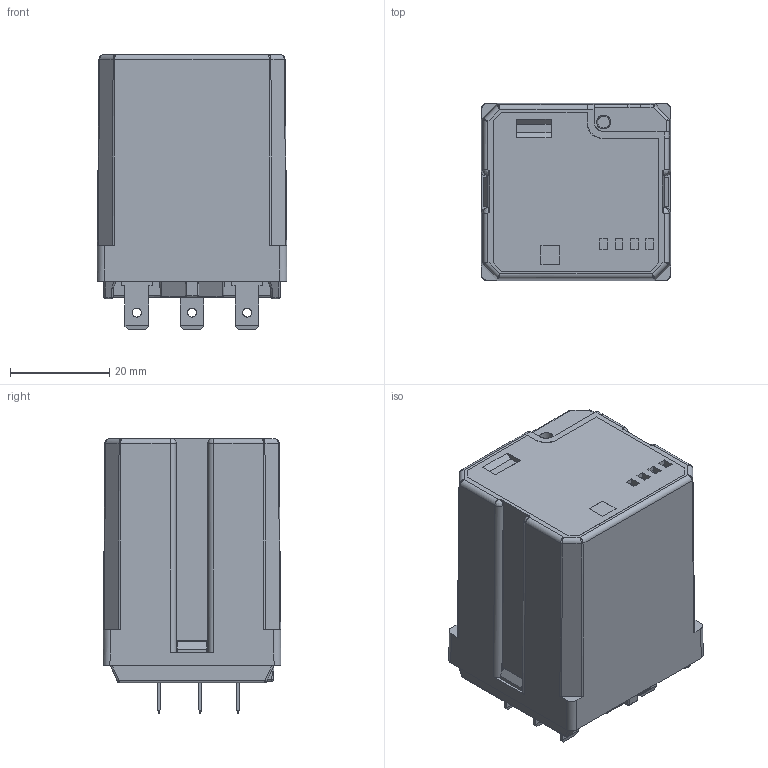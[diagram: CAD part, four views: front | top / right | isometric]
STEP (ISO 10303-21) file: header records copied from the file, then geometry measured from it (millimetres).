
FILE_DESCRIPTION(('STEP AP214'),'2;1');
FILE_NAME('6233-0300.stp','2011-09-07T15:18:35',(''),(''),'2007.1.106','THINKDESIGN','');
FILE_SCHEMA(('AUTOMOTIVE_DESIGN'));
Length unit declared in the file: millimetre
Products named in the file (1): None
Bounding box: 38.2 x 35.8 x 55.31 mm (x, y, z)
Surface area: 11569.9 mm2 (no closed solid volume)
Topology: 0 solids, 0 shells, 460 faces, 2577 edges, 2535 vertices
Faces by surface type: plane 278, cylinder 104, bspline 78
Full cylindrical faces by diameter (mm): 1.8 x8, 5 x1
Entity records: 28858 total; most frequent: CARTESIAN_POINT 10846, DIRECTION 2937, COMPOSITE_CURVE_SEGMENT 2553, TRIMMED_CURVE 2039, VECTOR 1941, LINE 1941, AXIS2_PLACEMENT_3D 498, OUTER_BOUNDARY_CURVE 460
